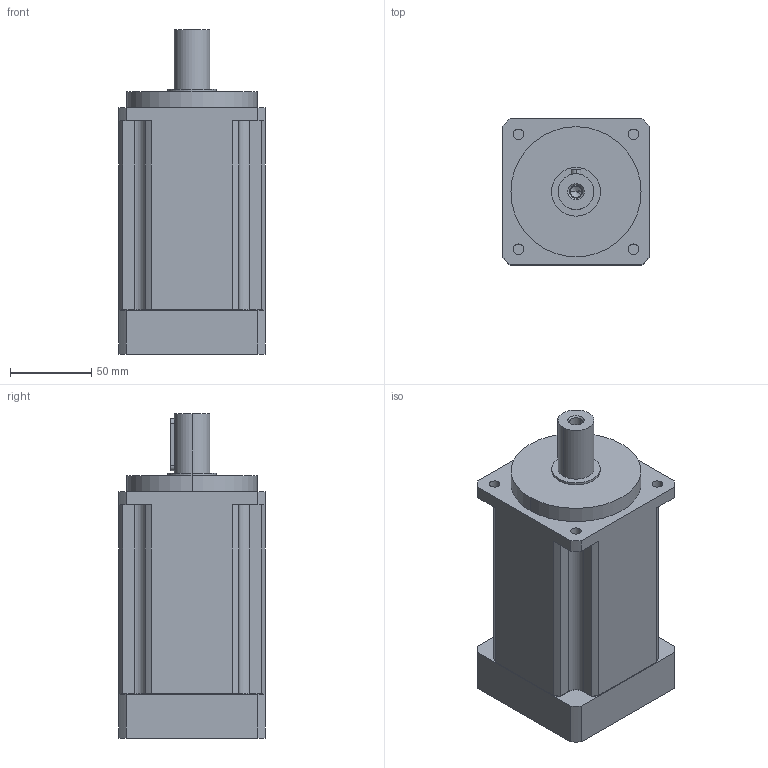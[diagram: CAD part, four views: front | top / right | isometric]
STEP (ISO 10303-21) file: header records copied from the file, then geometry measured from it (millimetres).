
FILE_DESCRIPTION (( 'STEP AP203' ), '1' );
FILE_NAME ('IB90L3.STEP', '2015-12-01T05:30:03', ( 'User' ), ( 'china' ), 'SwSTEP 2.0', 'SolidWorks 2015', '' );
FILE_SCHEMA (( 'CONFIG_CONTROL_DESIGN' ));
Length unit declared in the file: millimetre
Products named in the file (1): IB90L3
Bounding box: 90 x 90 x 199.5 mm (x, y, z)
Volume: 1126681.8 mm3; surface area: 80490.6 mm2
Topology: 1 solids, 1 shells, 133 faces, 321 edges, 197 vertices
Faces by surface type: cylinder 73, plane 36, cone 12, torus 12
Entity records: 4016 total; most frequent: CARTESIAN_POINT 785, DIRECTION 701, ORIENTED_EDGE 622, EDGE_CURVE 311, AXIS2_PLACEMENT_3D 275, VERTEX_POINT 197, EDGE_LOOP 158, VECTOR 151
